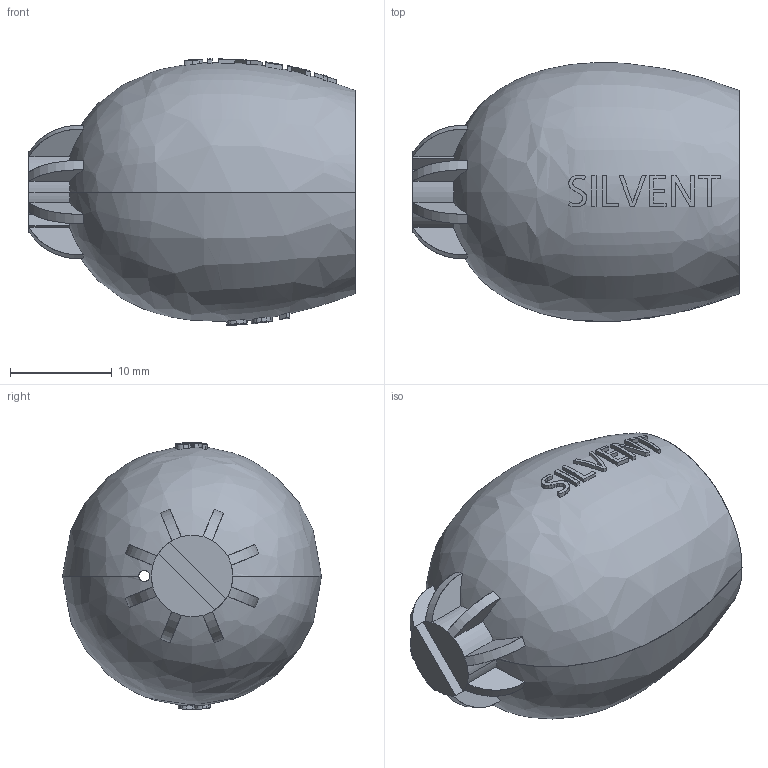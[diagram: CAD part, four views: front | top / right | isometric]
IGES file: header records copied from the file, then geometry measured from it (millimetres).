
Start section: SolidWorks IGES file using analytic representation for surfaces
Global section: file name: P:\SILVENT AB\ENGINEERING\Drawings\ÖVRIGT\IGES\Silvent 801.IGS; native system: SolidWorks 2011; preprocessor: SolidWorks 2011; author: s.andersson; date: 130827.121454; units: millimetre
Bounding box: 32.09 x 25.48 x 26.24 mm (x, y, z)
Surface area: 5455 mm2 (no closed solid volume)
Topology: 0 solids, 0 shells, 224 faces, 2690 edges, 2690 vertices
Faces by surface type: bspline 197, revolution 27
